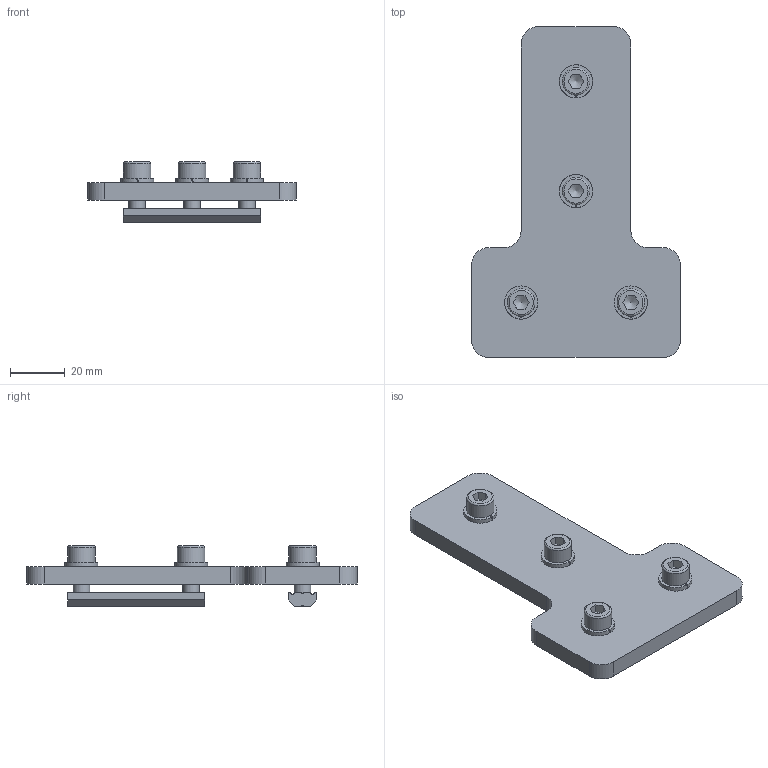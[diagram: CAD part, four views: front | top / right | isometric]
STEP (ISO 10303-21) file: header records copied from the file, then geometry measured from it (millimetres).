
FILE_DESCRIPTION(/* description */ ('Profile Angle Connector T-Form'),/* implementation_level */ '2;1');
FILE_NAME(/* name */ 'PAC-T-80-120.STEP',/* time_stamp */ '2026-02-10T15:08:34-05:00',/* author */ ('Design2'),/* organization */ ('CCS Design LLC'),/* preprocessor_version */ 'ST-DEVELOPER v20',/* originating_system */ 'Autodesk Inventor 2025',/* authorisation */ '');
FILE_SCHEMA (('AUTOMOTIVE_DESIGN { 1 0 10303 214 3 1 1 }'));
Length unit declared in the file: inch
Products named in the file (5): PAC-T-80-120; M-PAC-T-80-120; CN-6-40; ANSI B18.3.1M - M6x1 x 16; ASME B18.21.2M - 6
Assembly tree (11 placements, depth 2):
  PAC-T-80-120
    M-PAC-T-80-120
    ANSI B18.3.1M - M6x1 x 16  x4
    ASME B18.21.2M - 6  x4
    CN-6-40  x2
Bounding box: 76.2 x 120.65 x 22 mm (x, y, z)
Volume: 46800.4 mm3; surface area: 22238.4 mm2
Topology: 11 solids, 11 shells, 150 faces, 396 edges, 264 vertices
Faces by surface type: plane 82, cylinder 52, torus 8, cone 8
Full cylindrical faces by diameter (mm): 4.928 x4, 6 x4, 6.604 x4, 10 x4
Entity records: 2484 total; most frequent: CARTESIAN_POINT 530, DIRECTION 394, ORIENTED_EDGE 358, EDGE_CURVE 179, AXIS2_PLACEMENT_3D 149, VERTEX_POINT 120, LINE 96, VECTOR 96
